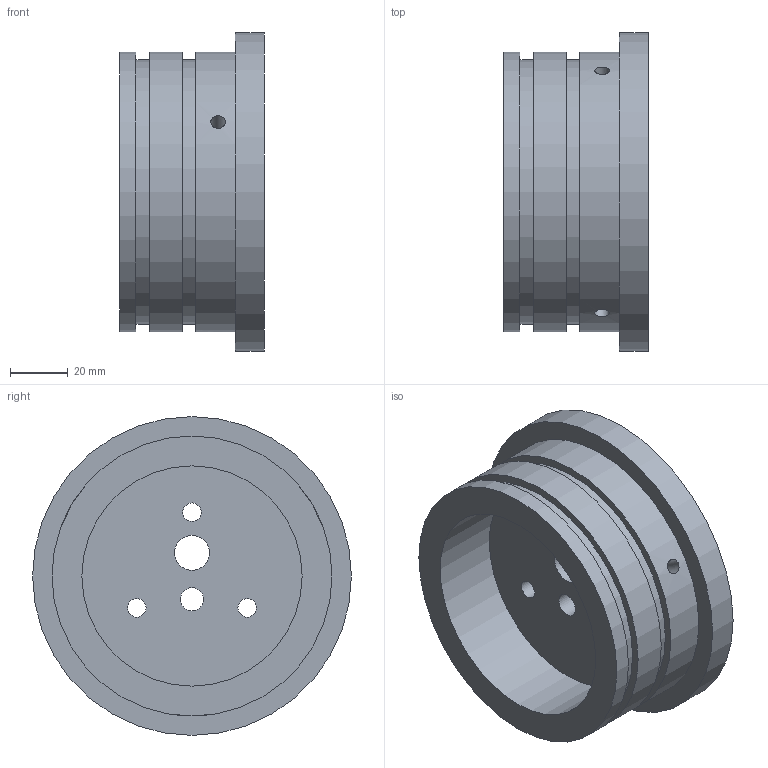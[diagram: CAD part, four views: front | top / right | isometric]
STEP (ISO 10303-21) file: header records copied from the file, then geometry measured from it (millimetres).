
FILE_DESCRIPTION(('Open CASCADE Model'),'2;1');
FILE_NAME('Open CASCADE Shape Model','2026-11-23T20:25:50',('Author'),( 'Open CASCADE'),'Open CASCADE STEP processor 7.9','Open CASCADE 7.9' ,'Unknown');
FILE_SCHEMA(('AUTOMOTIVE_DESIGN { 1 0 10303 214 1 1 1 1 }'));
Length unit declared in the file: millimetre
Products named in the file (1): Open CASCADE STEP translator 7.9 5
Bounding box: 50 x 110 x 110 mm (x, y, z)
Volume: 264178.3 mm3; surface area: 46760.1 mm2
Topology: 1 solids, 1 shells, 26 faces, 45 edges, 30 vertices
Faces by surface type: cylinder 15, plane 11
Full cylindrical faces by diameter (mm): 5 x3, 6.4 x3, 8 x1, 12 x1, 76 x1, 91.2 x2, 96.6 x3, 110 x1
Entity records: 1728 total; most frequent: CARTESIAN_POINT 732, DIRECTION 192, ORIENTED_EDGE 90, PCURVE 90, DEFINITIONAL_REPRESENTATION 90, LINE 72, VECTOR 72, AXIS2_PLACEMENT_3D 54
